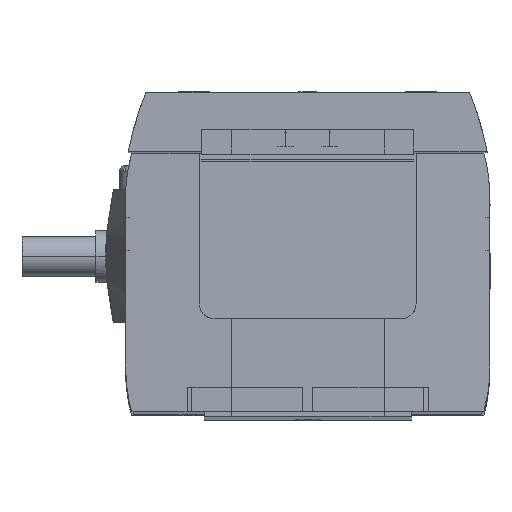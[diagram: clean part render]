
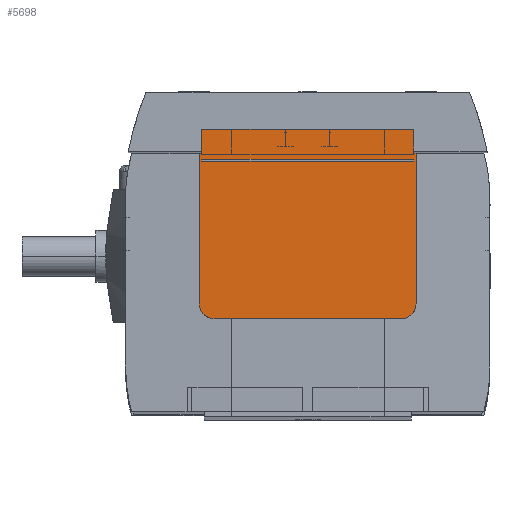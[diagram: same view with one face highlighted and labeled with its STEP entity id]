
A CAD part, top view. The second image highlights one B-rep face of the part: STEP entity #5698.
In plain terms, the highlighted planar face has unit normal (0, 0, 1).
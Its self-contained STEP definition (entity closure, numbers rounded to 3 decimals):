
#274 = DIRECTION ( 'NONE',  ( 0., 0., 1. ) ) ;
#363 = LINE ( 'NONE', #13315, #6560 ) ;
#551 = VERTEX_POINT ( 'NONE', #9939 ) ;
#810 = CIRCLE ( 'NONE', #3835, 3. ) ;
#859 = ORIENTED_EDGE ( 'NONE', *, *, #26507, .T. ) ;
#1255 = CARTESIAN_POINT ( 'NONE',  ( -21.5, -85.509, 429.5 ) ) ;
#1465 = DIRECTION ( 'NONE',  ( 1., 0., 0. ) ) ;
#1526 = FACE_BOUND ( 'NONE', #14383, .T. ) ;
#1916 = VECTOR ( 'NONE', #9935, 1000. ) ;
#2023 = CARTESIAN_POINT ( 'NONE',  ( -21.5, 20., 429.5 ) ) ;
#2065 = LINE ( 'NONE', #12743, #12556 ) ;
#3530 = EDGE_CURVE ( 'NONE', #5882, #551, #363, .T. ) ;
#3835 = AXIS2_PLACEMENT_3D ( 'NONE', #12783, #274, #14897 ) ;
#4743 = VERTEX_POINT ( 'NONE', #21836 ) ;
#4792 = LINE ( 'NONE', #13283, #14624 ) ;
#4967 = CARTESIAN_POINT ( 'NONE',  ( -22., 20., 429.5 ) ) ;
#5340 = EDGE_CURVE ( 'NONE', #26540, #5882, #10076, .T. ) ;
#5698 = ADVANCED_FACE ( 'NONE', ( #17560, #1526 ), #7544, .T. ) ;
#5801 = VERTEX_POINT ( 'NONE', #22518 ) ;
#5882 = VERTEX_POINT ( 'NONE', #10287 ) ;
#6165 = ORIENTED_EDGE ( 'NONE', *, *, #6710, .F. ) ;
#6266 = EDGE_CURVE ( 'NONE', #25825, #26826, #15965, .T. ) ;
#6560 = VECTOR ( 'NONE', #25787, 1000. ) ;
#6710 = EDGE_CURVE ( 'NONE', #22390, #25825, #12335, .T. ) ;
#7201 = CARTESIAN_POINT ( 'NONE',  ( -21.5, 24.8, 429.5 ) ) ;
#7272 = ORIENTED_EDGE ( 'NONE', *, *, #15618, .T. ) ;
#7544 = PLANE ( 'NONE',  #16697 ) ;
#8135 = LINE ( 'NONE', #24526, #1916 ) ;
#8155 = ORIENTED_EDGE ( 'NONE', *, *, #3530, .T. ) ;
#8171 = EDGE_CURVE ( 'NONE', #4743, #26826, #25457, .T. ) ;
#8569 = CARTESIAN_POINT ( 'NONE',  ( 21.5, 18.4, 429.5 ) ) ;
#8760 = EDGE_CURVE ( 'NONE', #4743, #22390, #22828, .T. ) ;
#9675 = EDGE_CURVE ( 'NONE', #14593, #11918, #4792, .T. ) ;
#9935 = DIRECTION ( 'NONE',  ( 1., 0., 0. ) ) ;
#9939 = CARTESIAN_POINT ( 'NONE',  ( 22., 20., 429.5 ) ) ;
#10076 = CIRCLE ( 'NONE', #20528, 3. ) ;
#10134 = DIRECTION ( 'NONE',  ( 0., 0., 1. ) ) ;
#10276 = ORIENTED_EDGE ( 'NONE', *, *, #6266, .F. ) ;
#10287 = CARTESIAN_POINT ( 'NONE',  ( 22., -10.6, 429.5 ) ) ;
#10381 = VERTEX_POINT ( 'NONE', #17977 ) ;
#10646 = DIRECTION ( 'NONE',  ( 0., 1., 0. ) ) ;
#10651 = EDGE_CURVE ( 'NONE', #11918, #10381, #810, .T. ) ;
#10690 = CARTESIAN_POINT ( 'NONE',  ( 21.5, 24.8, 429.5 ) ) ;
#10754 = EDGE_LOOP ( 'NONE', ( #21220, #7272, #11416, #22303, #25367, #22309, #8155, #859, #16560, #11226 ) ) ;
#11031 = VECTOR ( 'NONE', #14996, 1000. ) ;
#11226 = ORIENTED_EDGE ( 'NONE', *, *, #26020, .F. ) ;
#11416 = ORIENTED_EDGE ( 'NONE', *, *, #9675, .T. ) ;
#11541 = CARTESIAN_POINT ( 'NONE',  ( 21.5, -85.509, 429.5 ) ) ;
#11757 = CARTESIAN_POINT ( 'NONE',  ( -21.5, 19.8, 429.5 ) ) ;
#11918 = VERTEX_POINT ( 'NONE', #15477 ) ;
#11953 = CARTESIAN_POINT ( 'NONE',  ( 21.5, 20., 429.5 ) ) ;
#12254 = DIRECTION ( 'NONE',  ( 0., 1., 0. ) ) ;
#12335 = LINE ( 'NONE', #23389, #23429 ) ;
#12556 = VECTOR ( 'NONE', #10646, 1000. ) ;
#12743 = CARTESIAN_POINT ( 'NONE',  ( -21.5, 19.8, 429.5 ) ) ;
#12783 = CARTESIAN_POINT ( 'NONE',  ( -19., -10.6, 429.5 ) ) ;
#13174 = LINE ( 'NONE', #24744, #23610 ) ;
#13283 = CARTESIAN_POINT ( 'NONE',  ( -22., 18.4, 429.5 ) ) ;
#13315 = CARTESIAN_POINT ( 'NONE',  ( 22., 18.4, 429.5 ) ) ;
#13859 = DIRECTION ( 'NONE',  ( 1., 0., 0. ) ) ;
#13913 = VERTEX_POINT ( 'NONE', #10690 ) ;
#14383 = EDGE_LOOP ( 'NONE', ( #19162, #20755, #10276, #6165 ) ) ;
#14593 = VERTEX_POINT ( 'NONE', #4967 ) ;
#14624 = VECTOR ( 'NONE', #15405, 1000. ) ;
#14897 = DIRECTION ( 'NONE',  ( -1., 0., 0. ) ) ;
#14996 = DIRECTION ( 'NONE',  ( -1., 0., 0. ) ) ;
#15067 = CARTESIAN_POINT ( 'NONE',  ( -21.5, 18.4, 429.5 ) ) ;
#15405 = DIRECTION ( 'NONE',  ( 0., -1., 0. ) ) ;
#15477 = CARTESIAN_POINT ( 'NONE',  ( -22., -10.6, 429.5 ) ) ;
#15618 = EDGE_CURVE ( 'NONE', #25237, #14593, #27029, .T. ) ;
#15672 = VECTOR ( 'NONE', #26711, 1000. ) ;
#15965 = LINE ( 'NONE', #11541, #16608 ) ;
#16112 = CARTESIAN_POINT ( 'NONE',  ( -21.5, 18.8, 429.5 ) ) ;
#16560 = ORIENTED_EDGE ( 'NONE', *, *, #23402, .T. ) ;
#16608 = VECTOR ( 'NONE', #17748, 1000. ) ;
#16697 = AXIS2_PLACEMENT_3D ( 'NONE', #11757, #26355, #13859 ) ;
#17560 = FACE_OUTER_BOUND ( 'NONE', #10754, .T. ) ;
#17748 = DIRECTION ( 'NONE',  ( 0., 1., 0. ) ) ;
#17977 = CARTESIAN_POINT ( 'NONE',  ( -19., -13.6, 429.5 ) ) ;
#18282 = LINE ( 'NONE', #7201, #23830 ) ;
#19162 = ORIENTED_EDGE ( 'NONE', *, *, #8760, .F. ) ;
#19286 = DIRECTION ( 'NONE',  ( 1., 0., 0. ) ) ;
#20528 = AXIS2_PLACEMENT_3D ( 'NONE', #22624, #10134, #24718 ) ;
#20755 = ORIENTED_EDGE ( 'NONE', *, *, #8171, .T. ) ;
#21220 = ORIENTED_EDGE ( 'NONE', *, *, #22904, .F. ) ;
#21518 = VECTOR ( 'NONE', #24166, 1000. ) ;
#21825 = DIRECTION ( 'NONE',  ( 1., 0., 0. ) ) ;
#21836 = CARTESIAN_POINT ( 'NONE',  ( -21.5, 18.8, 429.5 ) ) ;
#22303 = ORIENTED_EDGE ( 'NONE', *, *, #10651, .T. ) ;
#22309 = ORIENTED_EDGE ( 'NONE', *, *, #5340, .T. ) ;
#22390 = VERTEX_POINT ( 'NONE', #15067 ) ;
#22518 = CARTESIAN_POINT ( 'NONE',  ( -21.5, 24.8, 429.5 ) ) ;
#22624 = CARTESIAN_POINT ( 'NONE',  ( 19., -10.6, 429.5 ) ) ;
#22828 = LINE ( 'NONE', #1255, #21518 ) ;
#22904 = EDGE_CURVE ( 'NONE', #25237, #5801, #2065, .T. ) ;
#23389 = CARTESIAN_POINT ( 'NONE',  ( -21.5, 18.4, 429.5 ) ) ;
#23402 = EDGE_CURVE ( 'NONE', #24551, #13913, #13174, .T. ) ;
#23429 = VECTOR ( 'NONE', #19286, 1000. ) ;
#23610 = VECTOR ( 'NONE', #12254, 1000. ) ;
#23830 = VECTOR ( 'NONE', #21825, 1000. ) ;
#24166 = DIRECTION ( 'NONE',  ( 0., -1., 0. ) ) ;
#24526 = CARTESIAN_POINT ( 'NONE',  ( -22., -13.6, 429.5 ) ) ;
#24551 = VERTEX_POINT ( 'NONE', #11953 ) ;
#24593 = CARTESIAN_POINT ( 'NONE',  ( -22., 20., 429.5 ) ) ;
#24692 = CARTESIAN_POINT ( 'NONE',  ( 19., -13.6, 429.5 ) ) ;
#24718 = DIRECTION ( 'NONE',  ( -1., 0., 0. ) ) ;
#24744 = CARTESIAN_POINT ( 'NONE',  ( 21.5, 19.8, 429.5 ) ) ;
#25237 = VERTEX_POINT ( 'NONE', #2023 ) ;
#25362 = CARTESIAN_POINT ( 'NONE',  ( -22., 20., 429.5 ) ) ;
#25367 = ORIENTED_EDGE ( 'NONE', *, *, #26217, .T. ) ;
#25457 = LINE ( 'NONE', #16112, #26110 ) ;
#25499 = CARTESIAN_POINT ( 'NONE',  ( 21.5, 18.8, 429.5 ) ) ;
#25787 = DIRECTION ( 'NONE',  ( 0., 1., 0. ) ) ;
#25825 = VERTEX_POINT ( 'NONE', #8569 ) ;
#26020 = EDGE_CURVE ( 'NONE', #5801, #13913, #18282, .T. ) ;
#26110 = VECTOR ( 'NONE', #1465, 1000. ) ;
#26217 = EDGE_CURVE ( 'NONE', #10381, #26540, #8135, .T. ) ;
#26355 = DIRECTION ( 'NONE',  ( 0., 0., 1. ) ) ;
#26507 = EDGE_CURVE ( 'NONE', #551, #24551, #26743, .T. ) ;
#26540 = VERTEX_POINT ( 'NONE', #24692 ) ;
#26711 = DIRECTION ( 'NONE',  ( -1., 0., 0. ) ) ;
#26743 = LINE ( 'NONE', #24593, #15672 ) ;
#26826 = VERTEX_POINT ( 'NONE', #25499 ) ;
#27029 = LINE ( 'NONE', #25362, #11031 ) ;
